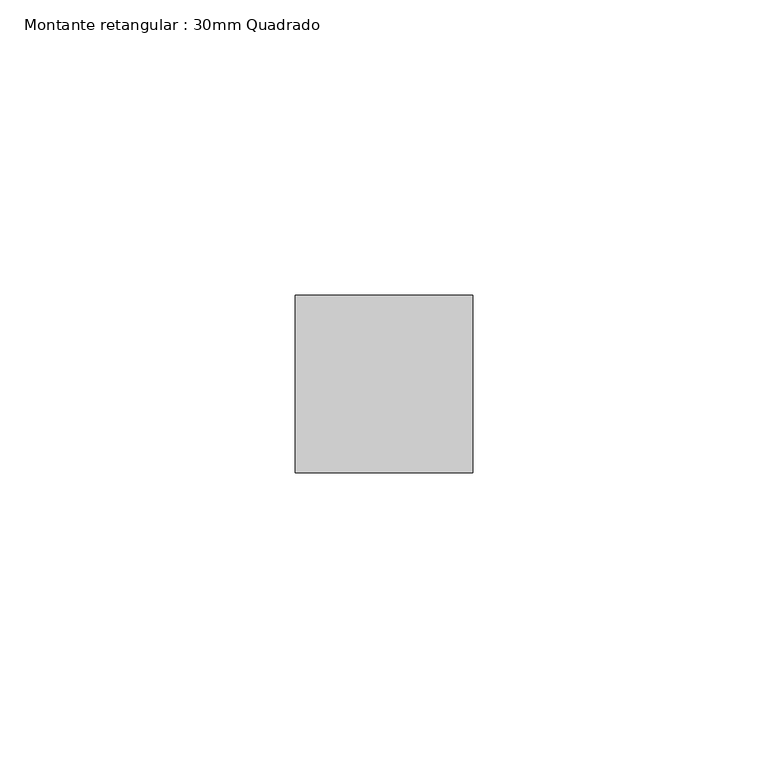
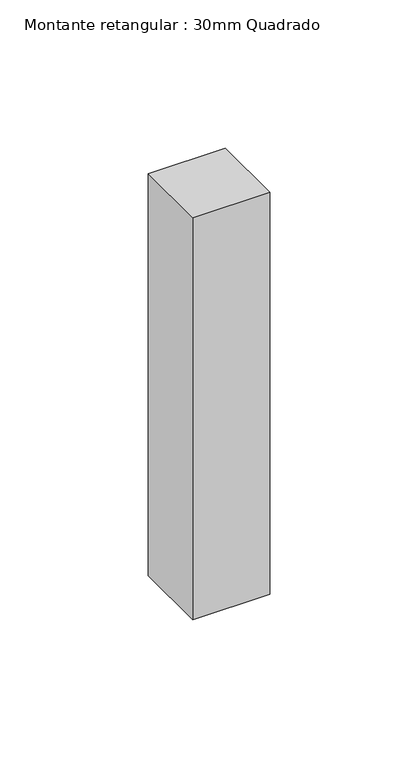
"""IFC4 building model written with IfcOpenShell, lengths in millimetres: member geometry, Montante retangular : 30mm Quadrado."""

from ifc_helpers import new_model, si_unit, frame, origin, place, context, project, spatial, polyline, outline, extrude, source, transform, mapped, element, save


def montante_retangular_30mm_quadrado_d4df406a(model_context):
    return source(origin(), model_context, "Body", "SweptSolid", [
        extrude(outline(polyline([(0.0, 15.0), (0.0, -15.0), (-30.0, -15.0), (-30.0, 15.0), (0.0, 15.0)])), frame((0.0, 0.0, -165.4776858), z_axis=(0.0, 0.0, 1.0), x_axis=(1.0, 0.0, 0.0)), (0.0, 0.0, 1.0), 165.4776858),
    ])


if __name__ == "__main__":
    model = new_model("IFC4")
    model_context = context("Model", 3, world=origin())
    ifc_project = project(units=[si_unit("LENGTHUNIT", "METRE", prefix="MILLI")], contexts=[model_context])
    site = spatial("IfcSite", under=ifc_project)
    building = spatial("IfcBuilding", under=site)
    placement = place(None, origin())
    montante_retangular_30mm_quadrado_shape = montante_retangular_30mm_quadrado_d4df406a(model_context)
    element("IfcMember", 1, ObjectType="Montante retangular : 30mm Quadrado", at=placement, inside=building, context=model_context, shape_type="MappedRepresentation", body=[
        mapped(montante_retangular_30mm_quadrado_shape, transform((0.0, 0.0, 0.0), x_axis=(1.0, 0.0, 0.0), y_axis=(0.0, 1.0, 0.0), z_axis=(0.0, 0.0, 1.0))),
    ])
    save(model, "model.ifc")
